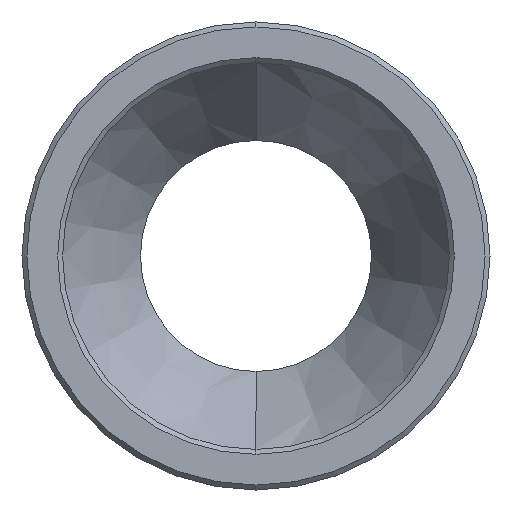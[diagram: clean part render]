
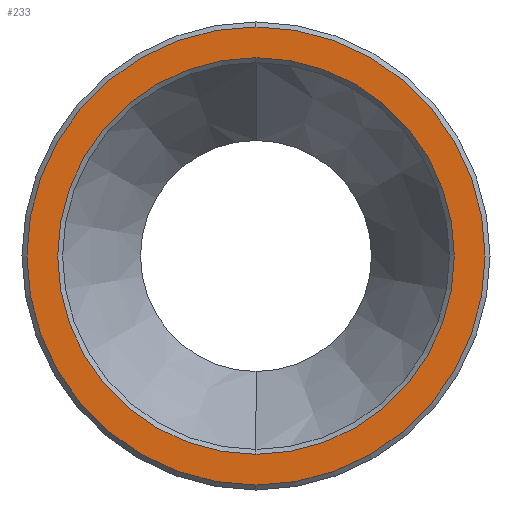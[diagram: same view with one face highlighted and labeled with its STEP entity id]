
A CAD part, left-side view. The second image highlights one B-rep face of the part: STEP entity #233.
In plain terms, the highlighted planar face has unit normal (-1, 0, 0).
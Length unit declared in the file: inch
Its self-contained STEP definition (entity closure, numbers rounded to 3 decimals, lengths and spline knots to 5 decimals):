
#27 = DIRECTION ( 'NONE',  ( 0., 0., 1. ) ) ;
#75 = CARTESIAN_POINT ( 'NONE',  ( 0., 0., 0. ) ) ;
#78 = CARTESIAN_POINT ( 'NONE',  ( 0., 0., -0.36713 ) ) ;
#88 = CIRCLE ( 'NONE', #348, 0.36713 ) ;
#100 = VERTEX_POINT ( 'NONE', #329 ) ;
#134 = VERTEX_POINT ( 'NONE', #78 ) ;
#135 = FACE_BOUND ( 'NONE', #574, .T. ) ;
#144 = ORIENTED_EDGE ( 'NONE', *, *, #315, .T. ) ;
#156 = AXIS2_PLACEMENT_3D ( 'NONE', #413, #176, #271 ) ;
#158 = EDGE_CURVE ( 'NONE', #300, #474, #368, .T. ) ;
#176 = DIRECTION ( 'NONE',  ( 1., 0., 0. ) ) ;
#200 = CARTESIAN_POINT ( 'NONE',  ( 0., 0., 0. ) ) ;
#216 = CARTESIAN_POINT ( 'NONE',  ( 0., 0., 0. ) ) ;
#233 = ADVANCED_FACE ( 'NONE', ( #135, #454 ), #600, .F. ) ;
#246 = CARTESIAN_POINT ( 'NONE',  ( 0., 0., 0. ) ) ;
#253 = DIRECTION ( 'NONE',  ( 0., 0., 1. ) ) ;
#263 = DIRECTION ( 'NONE',  ( 0., 0., 1. ) ) ;
#267 = AXIS2_PLACEMENT_3D ( 'NONE', #75, #407, #27 ) ;
#271 = DIRECTION ( 'NONE',  ( 0., 0., -1. ) ) ;
#273 = AXIS2_PLACEMENT_3D ( 'NONE', #216, #551, #263 ) ;
#286 = CARTESIAN_POINT ( 'NONE',  ( 0., 0., -0.31787 ) ) ;
#288 = DIRECTION ( 'NONE',  ( 0., 0., 1. ) ) ;
#300 = VERTEX_POINT ( 'NONE', #286 ) ;
#315 = EDGE_CURVE ( 'NONE', #100, #134, #88, .T. ) ;
#329 = CARTESIAN_POINT ( 'NONE',  ( 0., 0., 0.36713 ) ) ;
#348 = AXIS2_PLACEMENT_3D ( 'NONE', #246, #581, #288 ) ;
#368 = CIRCLE ( 'NONE', #267, 0.31787 ) ;
#387 = ORIENTED_EDGE ( 'NONE', *, *, #396, .T. ) ;
#396 = EDGE_CURVE ( 'NONE', #134, #100, #585, .T. ) ;
#397 = CARTESIAN_POINT ( 'NONE',  ( 0., 0., 0.31787 ) ) ;
#407 = DIRECTION ( 'NONE',  ( -1., 0., 0. ) ) ;
#413 = CARTESIAN_POINT ( 'NONE',  ( 0., 0.31787, 0. ) ) ;
#454 = FACE_OUTER_BOUND ( 'NONE', #462, .T. ) ;
#462 = EDGE_LOOP ( 'NONE', ( #387, #144 ) ) ;
#473 = AXIS2_PLACEMENT_3D ( 'NONE', #200, #542, #253 ) ;
#474 = VERTEX_POINT ( 'NONE', #397 ) ;
#503 = ORIENTED_EDGE ( 'NONE', *, *, #158, .F. ) ;
#542 = DIRECTION ( 'NONE',  ( -1., 0., 0. ) ) ;
#551 = DIRECTION ( 'NONE',  ( -1., 0., 0. ) ) ;
#572 = EDGE_CURVE ( 'NONE', #474, #300, #605, .T. ) ;
#574 = EDGE_LOOP ( 'NONE', ( #576, #503 ) ) ;
#576 = ORIENTED_EDGE ( 'NONE', *, *, #572, .F. ) ;
#581 = DIRECTION ( 'NONE',  ( -1., 0., 0. ) ) ;
#585 = CIRCLE ( 'NONE', #473, 0.36713 ) ;
#600 = PLANE ( 'NONE',  #156 ) ;
#605 = CIRCLE ( 'NONE', #273, 0.31787 ) ;
